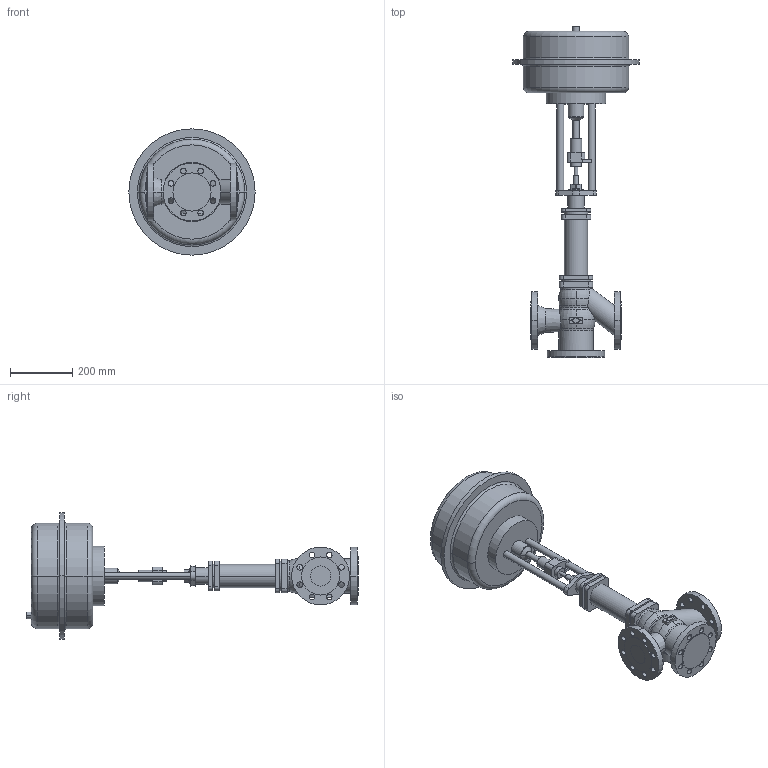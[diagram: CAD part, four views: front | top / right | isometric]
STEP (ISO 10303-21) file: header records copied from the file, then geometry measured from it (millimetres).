
FILE_DESCRIPTION(('OneSpaceDesigner STEP Export'),'2;1');
FILE_NAME('c000000762.stp','2006-09-21T 8:48:35',(''),(''),'OneSpace Designer STEP processor for AP214 (Solid Model)','OneSpace Designer 13.20A 18-Aug-2005 (C) CoCreate Software GmbH','');
FILE_SCHEMA(('AUTOMOTIVE_DESIGN { 1 0 10303 214 1 1 1 1 }'));
Length unit declared in the file: millimetre
Products named in the file (2): 1; 2
Bounding box: 405 x 1064 x 405 mm (x, y, z)
Volume: 25686527.8 mm3; surface area: 975560.1 mm2
Topology: 2 solids, 2 shells, 269 faces, 678 edges, 447 vertices
Faces by surface type: cylinder 140, plane 92, torus 31, cone 6
Entity records: 7530 total; most frequent: CARTESIAN_POINT 1520, ORIENTED_EDGE 1356, DIRECTION 1094, EDGE_CURVE 678, VERTEX_POINT 447, AXIS2_PLACEMENT_3D 401, EDGE_LOOP 351, VECTOR 292
